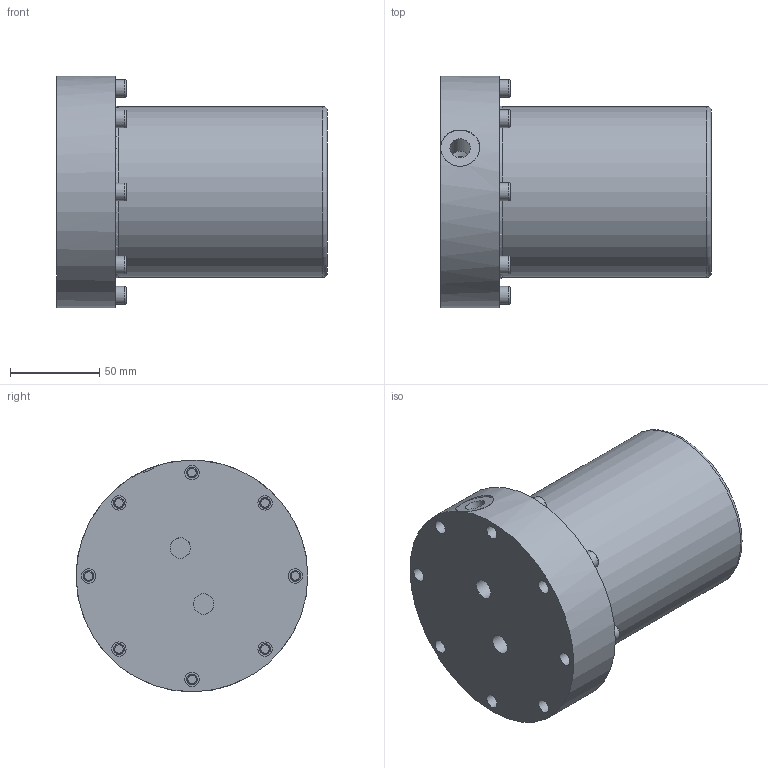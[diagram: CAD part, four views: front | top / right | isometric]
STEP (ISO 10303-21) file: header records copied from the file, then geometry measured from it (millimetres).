
FILE_DESCRIPTION(/* description */ (''),/* implementation_level */ '2;1');
FILE_NAME(/* name */ 'IKM-1003730 - COMPENSATOR BOTTLE 0,25 L_COMPRESSED_SOLID.stp',/* time_stamp */ '2025-08-20T12:17:39+02:00',/* author */ ('KateB'),/* organization */ (''),/* preprocessor_version */ 'ST-DEVELOPER v19.2',/* originating_system */ 'Autodesk Inventor 2023',/* authorisation */ '');
FILE_SCHEMA (('CONFIG_CONTROL_DESIGN'));
Length unit declared in the file: millimetre
Products named in the file (1): IKM-1003730 - COMPENSATOR BOTTLE 0,25 L_COMPRESSED_Component10
Bounding box: 152 x 130 x 130 mm (x, y, z)
Volume: 767595 mm3; surface area: 184052.4 mm2
Topology: 1 solids, 11 shells, 263 faces, 588 edges, 387 vertices
Faces by surface type: plane 117, cylinder 77, torus 37, cone 21, bspline 11
Full cylindrical faces by diameter (mm): 4 x1, 6 x17, 6.2 x8, 6.5 x8, 8 x8, 8.4 x1, 10 x9, 11.445 x3, 12 x3, 12.5 x1, 17 x4, 17.5 x1, 22 x1, 60 x1, 70 x1, 78.8 x1, 80 x2, 89.8 x1, 96 x1, 100 x1, 103 x1, 130 x1
Entity records: 10806 total; most frequent: CARTESIAN_POINT 4812, DIRECTION 1293, ORIENTED_EDGE 1162, EDGE_CURVE 581, AXIS2_PLACEMENT_3D 548, VERTEX_POINT 387, EDGE_LOOP 342, CIRCLE 295
